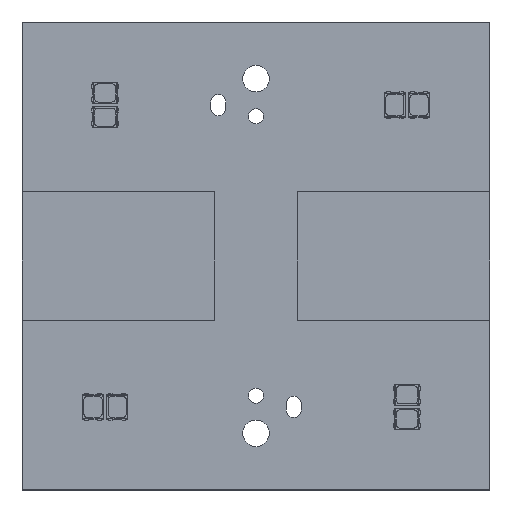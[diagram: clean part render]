
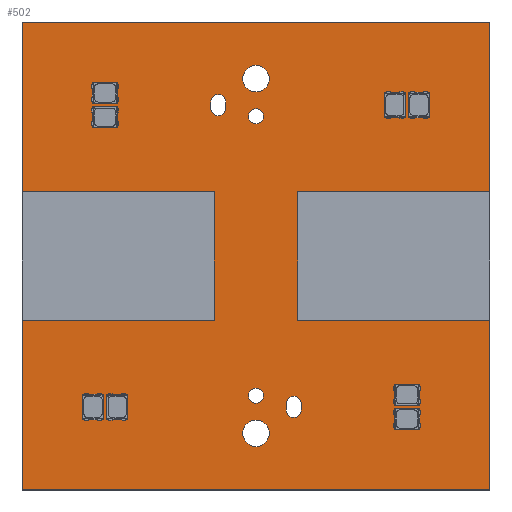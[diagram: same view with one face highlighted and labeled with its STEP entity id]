
A CAD part, top view. The second image highlights one B-rep face of the part: STEP entity #502.
In plain terms, the highlighted planar face has unit normal (0, 0, 1).
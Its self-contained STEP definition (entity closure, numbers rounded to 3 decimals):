
#60=CARTESIAN_POINT('Vertex',(14.5,28.5,0.)) ;
#65=CARTESIAN_POINT('Line Origine',(1.75,28.5,0.)) ;
#69=CARTESIAN_POINT('Vertex',(-11.,28.5,0.)) ;
#100=CARTESIAN_POINT('Vertex',(-11.,11.5,0.)) ;
#105=CARTESIAN_POINT('Line Origine',(1.75,11.5,0.)) ;
#109=CARTESIAN_POINT('Vertex',(14.5,11.5,0.)) ;
#158=CARTESIAN_POINT('Line Origine',(14.5,20.,0.)) ;
#179=CARTESIAN_POINT('Vertex',(25.5,28.5,0.)) ;
#184=CARTESIAN_POINT('Line Origine',(25.5,20.,0.)) ;
#188=CARTESIAN_POINT('Vertex',(25.5,11.5,0.)) ;
#214=CARTESIAN_POINT('Vertex',(51.,28.5,0.)) ;
#219=CARTESIAN_POINT('Line Origine',(38.25,28.5,0.)) ;
#236=CARTESIAN_POINT('Line Origine',(38.25,11.5,0.)) ;
#240=CARTESIAN_POINT('Vertex',(51.,11.5,0.)) ;
#292=CARTESIAN_POINT('Vertex',(51.,-11.,0.)) ;
#295=CARTESIAN_POINT('Line Origine',(20.,-11.,0.)) ;
#299=CARTESIAN_POINT('Vertex',(-11.,-11.,0.)) ;
#314=CARTESIAN_POINT('Axis2P3D Location',(0.,0.,0.)) ;
#319=CARTESIAN_POINT('Line Origine',(51.,39.75,0.)) ;
#323=CARTESIAN_POINT('Vertex',(51.,51.,0.)) ;
#326=CARTESIAN_POINT('Line Origine',(20.,51.,0.)) ;
#330=CARTESIAN_POINT('Vertex',(-11.,51.,0.)) ;
#333=CARTESIAN_POINT('Line Origine',(-11.,39.75,0.)) ;
#338=CARTESIAN_POINT('Line Origine',(-11.,0.25,0.)) ;
#343=CARTESIAN_POINT('Line Origine',(51.,0.25,0.)) ;
#362=CARTESIAN_POINT('Axis2P3D Location',(20.,38.5,0.)) ;
#366=CARTESIAN_POINT('Vertex',(19.,38.5,0.)) ;
#368=CARTESIAN_POINT('Vertex',(21.,38.5,0.)) ;
#371=CARTESIAN_POINT('Axis2P3D Location',(20.,38.5,0.)) ;
#380=CARTESIAN_POINT('Axis2P3D Location',(20.,-3.5,0.)) ;
#384=CARTESIAN_POINT('Vertex',(18.25,-3.5,0.)) ;
#386=CARTESIAN_POINT('Vertex',(21.75,-3.5,0.)) ;
#389=CARTESIAN_POINT('Axis2P3D Location',(20.,-3.5,0.)) ;
#398=CARTESIAN_POINT('Axis2P3D Location',(20.,43.5,0.)) ;
#402=CARTESIAN_POINT('Vertex',(18.25,43.5,0.)) ;
#404=CARTESIAN_POINT('Vertex',(21.75,43.5,0.)) ;
#407=CARTESIAN_POINT('Axis2P3D Location',(20.,43.5,0.)) ;
#416=CARTESIAN_POINT('Axis2P3D Location',(20.,1.5,0.)) ;
#420=CARTESIAN_POINT('Vertex',(19.,1.5,0.)) ;
#422=CARTESIAN_POINT('Vertex',(21.,1.5,0.)) ;
#425=CARTESIAN_POINT('Axis2P3D Location',(20.,1.5,0.)) ;
#434=CARTESIAN_POINT('Line Origine',(26.,0.,0.)) ;
#438=CARTESIAN_POINT('Vertex',(26.,-0.4,0.)) ;
#440=CARTESIAN_POINT('Vertex',(26.,0.4,0.)) ;
#443=CARTESIAN_POINT('Axis2P3D Location',(25.,-0.4,0.)) ;
#447=CARTESIAN_POINT('Vertex',(24.,-0.4,0.)) ;
#450=CARTESIAN_POINT('Line Origine',(24.,0.,0.)) ;
#454=CARTESIAN_POINT('Vertex',(24.,0.4,0.)) ;
#457=CARTESIAN_POINT('Axis2P3D Location',(25.,0.4,0.)) ;
#468=CARTESIAN_POINT('Line Origine',(16.,40.,0.)) ;
#472=CARTESIAN_POINT('Vertex',(16.,39.6,0.)) ;
#474=CARTESIAN_POINT('Vertex',(16.,40.4,0.)) ;
#477=CARTESIAN_POINT('Axis2P3D Location',(15.,39.6,0.)) ;
#481=CARTESIAN_POINT('Vertex',(14.,39.6,0.)) ;
#484=CARTESIAN_POINT('Line Origine',(14.,40.,0.)) ;
#488=CARTESIAN_POINT('Vertex',(14.,40.4,0.)) ;
#491=CARTESIAN_POINT('Axis2P3D Location',(15.,40.4,0.)) ;
#66=DIRECTION('Vector Direction',(1.,0.,0.)) ;
#106=DIRECTION('Vector Direction',(-1.,0.,0.)) ;
#159=DIRECTION('Vector Direction',(0.,1.,0.)) ;
#185=DIRECTION('Vector Direction',(0.,-1.,0.)) ;
#220=DIRECTION('Vector Direction',(1.,0.,0.)) ;
#237=DIRECTION('Vector Direction',(-1.,0.,0.)) ;
#296=DIRECTION('Vector Direction',(1.,0.,0.)) ;
#315=DIRECTION('Axis2P3D Direction',(0.,0.,1.)) ;
#316=DIRECTION('Axis2P3D XDirection',(1.,0.,0.)) ;
#320=DIRECTION('Vector Direction',(0.,1.,0.)) ;
#327=DIRECTION('Vector Direction',(-1.,0.,0.)) ;
#334=DIRECTION('Vector Direction',(0.,-1.,0.)) ;
#339=DIRECTION('Vector Direction',(0.,-1.,0.)) ;
#344=DIRECTION('Vector Direction',(0.,1.,0.)) ;
#363=DIRECTION('Axis2P3D Direction',(0.,0.,1.)) ;
#372=DIRECTION('Axis2P3D Direction',(0.,0.,1.)) ;
#381=DIRECTION('Axis2P3D Direction',(0.,0.,1.)) ;
#390=DIRECTION('Axis2P3D Direction',(0.,0.,1.)) ;
#399=DIRECTION('Axis2P3D Direction',(0.,0.,1.)) ;
#408=DIRECTION('Axis2P3D Direction',(0.,0.,1.)) ;
#417=DIRECTION('Axis2P3D Direction',(0.,0.,1.)) ;
#426=DIRECTION('Axis2P3D Direction',(0.,0.,1.)) ;
#435=DIRECTION('Vector Direction',(0.,-1.,0.)) ;
#444=DIRECTION('Axis2P3D Direction',(0.,0.,1.)) ;
#451=DIRECTION('Vector Direction',(0.,-1.,0.)) ;
#458=DIRECTION('Axis2P3D Direction',(0.,0.,1.)) ;
#469=DIRECTION('Vector Direction',(0.,1.,0.)) ;
#478=DIRECTION('Axis2P3D Direction',(0.,0.,1.)) ;
#485=DIRECTION('Vector Direction',(0.,1.,0.)) ;
#492=DIRECTION('Axis2P3D Direction',(0.,0.,1.)) ;
#317=AXIS2_PLACEMENT_3D('Plane Axis2P3D',#314,#315,#316) ;
#364=AXIS2_PLACEMENT_3D('Circle Axis2P3D',#362,#363,$) ;
#373=AXIS2_PLACEMENT_3D('Circle Axis2P3D',#371,#372,$) ;
#382=AXIS2_PLACEMENT_3D('Circle Axis2P3D',#380,#381,$) ;
#391=AXIS2_PLACEMENT_3D('Circle Axis2P3D',#389,#390,$) ;
#400=AXIS2_PLACEMENT_3D('Circle Axis2P3D',#398,#399,$) ;
#409=AXIS2_PLACEMENT_3D('Circle Axis2P3D',#407,#408,$) ;
#418=AXIS2_PLACEMENT_3D('Circle Axis2P3D',#416,#417,$) ;
#427=AXIS2_PLACEMENT_3D('Circle Axis2P3D',#425,#426,$) ;
#445=AXIS2_PLACEMENT_3D('Circle Axis2P3D',#443,#444,$) ;
#459=AXIS2_PLACEMENT_3D('Circle Axis2P3D',#457,#458,$) ;
#479=AXIS2_PLACEMENT_3D('Circle Axis2P3D',#477,#478,$) ;
#493=AXIS2_PLACEMENT_3D('Circle Axis2P3D',#491,#492,$) ;
#349=ORIENTED_EDGE('',*,*,#325,.T.) ;
#350=ORIENTED_EDGE('',*,*,#332,.T.) ;
#351=ORIENTED_EDGE('',*,*,#337,.T.) ;
#352=ORIENTED_EDGE('',*,*,#71,.F.) ;
#353=ORIENTED_EDGE('',*,*,#162,.F.) ;
#354=ORIENTED_EDGE('',*,*,#111,.F.) ;
#355=ORIENTED_EDGE('',*,*,#342,.T.) ;
#356=ORIENTED_EDGE('',*,*,#301,.T.) ;
#357=ORIENTED_EDGE('',*,*,#347,.T.) ;
#358=ORIENTED_EDGE('',*,*,#242,.F.) ;
#359=ORIENTED_EDGE('',*,*,#190,.F.) ;
#360=ORIENTED_EDGE('',*,*,#223,.F.) ;
#377=ORIENTED_EDGE('',*,*,#370,.F.) ;
#378=ORIENTED_EDGE('',*,*,#375,.F.) ;
#395=ORIENTED_EDGE('',*,*,#388,.F.) ;
#396=ORIENTED_EDGE('',*,*,#393,.F.) ;
#413=ORIENTED_EDGE('',*,*,#406,.F.) ;
#414=ORIENTED_EDGE('',*,*,#411,.F.) ;
#431=ORIENTED_EDGE('',*,*,#424,.F.) ;
#432=ORIENTED_EDGE('',*,*,#429,.F.) ;
#463=ORIENTED_EDGE('',*,*,#442,.F.) ;
#464=ORIENTED_EDGE('',*,*,#449,.F.) ;
#465=ORIENTED_EDGE('',*,*,#456,.F.) ;
#466=ORIENTED_EDGE('',*,*,#461,.F.) ;
#497=ORIENTED_EDGE('',*,*,#476,.F.) ;
#498=ORIENTED_EDGE('',*,*,#483,.F.) ;
#499=ORIENTED_EDGE('',*,*,#490,.F.) ;
#500=ORIENTED_EDGE('',*,*,#495,.F.) ;
#379=FACE_BOUND('',#376,.T.) ;
#397=FACE_BOUND('',#394,.T.) ;
#415=FACE_BOUND('',#412,.T.) ;
#433=FACE_BOUND('',#430,.T.) ;
#467=FACE_BOUND('',#462,.T.) ;
#501=FACE_BOUND('',#496,.T.) ;
#67=VECTOR('Line Direction',#66,1.) ;
#107=VECTOR('Line Direction',#106,1.) ;
#160=VECTOR('Line Direction',#159,1.) ;
#186=VECTOR('Line Direction',#185,1.) ;
#221=VECTOR('Line Direction',#220,1.) ;
#238=VECTOR('Line Direction',#237,1.) ;
#297=VECTOR('Line Direction',#296,1.) ;
#321=VECTOR('Line Direction',#320,1.) ;
#328=VECTOR('Line Direction',#327,1.) ;
#335=VECTOR('Line Direction',#334,1.) ;
#340=VECTOR('Line Direction',#339,1.) ;
#345=VECTOR('Line Direction',#344,1.) ;
#436=VECTOR('Line Direction',#435,1.) ;
#452=VECTOR('Line Direction',#451,1.) ;
#470=VECTOR('Line Direction',#469,1.) ;
#486=VECTOR('Line Direction',#485,1.) ;
#502=ADVANCED_FACE('PartBody',(#361,#379,#397,#415,#433,#467,#501),#318,.T.) ;
#365=CIRCLE('generated circle',#364,1.) ;
#374=CIRCLE('generated circle',#373,1.) ;
#383=CIRCLE('generated circle',#382,1.75) ;
#392=CIRCLE('generated circle',#391,1.75) ;
#401=CIRCLE('generated circle',#400,1.75) ;
#410=CIRCLE('generated circle',#409,1.75) ;
#419=CIRCLE('generated circle',#418,1.) ;
#428=CIRCLE('generated circle',#427,1.) ;
#446=CIRCLE('generated circle',#445,1.) ;
#460=CIRCLE('generated circle',#459,1.) ;
#480=CIRCLE('generated circle',#479,1.) ;
#494=CIRCLE('generated circle',#493,1.) ;
#71=EDGE_CURVE('',#61,#70,#68,.F.) ;
#111=EDGE_CURVE('',#101,#110,#108,.F.) ;
#162=EDGE_CURVE('',#110,#61,#161,.T.) ;
#190=EDGE_CURVE('',#180,#189,#187,.T.) ;
#223=EDGE_CURVE('',#215,#180,#222,.F.) ;
#242=EDGE_CURVE('',#189,#241,#239,.F.) ;
#301=EDGE_CURVE('',#300,#293,#298,.T.) ;
#325=EDGE_CURVE('',#215,#324,#322,.T.) ;
#332=EDGE_CURVE('',#324,#331,#329,.T.) ;
#337=EDGE_CURVE('',#331,#70,#336,.T.) ;
#342=EDGE_CURVE('',#101,#300,#341,.T.) ;
#347=EDGE_CURVE('',#293,#241,#346,.T.) ;
#370=EDGE_CURVE('',#367,#369,#365,.T.) ;
#375=EDGE_CURVE('',#369,#367,#374,.T.) ;
#388=EDGE_CURVE('',#385,#387,#383,.T.) ;
#393=EDGE_CURVE('',#387,#385,#392,.T.) ;
#406=EDGE_CURVE('',#403,#405,#401,.T.) ;
#411=EDGE_CURVE('',#405,#403,#410,.T.) ;
#424=EDGE_CURVE('',#421,#423,#419,.T.) ;
#429=EDGE_CURVE('',#423,#421,#428,.T.) ;
#442=EDGE_CURVE('',#439,#441,#437,.F.) ;
#449=EDGE_CURVE('',#448,#439,#446,.T.) ;
#456=EDGE_CURVE('',#455,#448,#453,.T.) ;
#461=EDGE_CURVE('',#441,#455,#460,.T.) ;
#476=EDGE_CURVE('',#473,#475,#471,.T.) ;
#483=EDGE_CURVE('',#482,#473,#480,.T.) ;
#490=EDGE_CURVE('',#489,#482,#487,.F.) ;
#495=EDGE_CURVE('',#475,#489,#494,.T.) ;
#348=EDGE_LOOP('',(#349,#350,#351,#352,#353,#354,#355,#356,#357,#358,#359,#360)) ;
#376=EDGE_LOOP('',(#377,#378)) ;
#394=EDGE_LOOP('',(#395,#396)) ;
#412=EDGE_LOOP('',(#413,#414)) ;
#430=EDGE_LOOP('',(#431,#432)) ;
#462=EDGE_LOOP('',(#463,#464,#465,#466)) ;
#496=EDGE_LOOP('',(#497,#498,#499,#500)) ;
#361=FACE_OUTER_BOUND('',#348,.T.) ;
#68=LINE('Line',#65,#67) ;
#108=LINE('Line',#105,#107) ;
#161=LINE('Line',#158,#160) ;
#187=LINE('Line',#184,#186) ;
#222=LINE('Line',#219,#221) ;
#239=LINE('Line',#236,#238) ;
#298=LINE('Line',#295,#297) ;
#322=LINE('Line',#319,#321) ;
#329=LINE('Line',#326,#328) ;
#336=LINE('Line',#333,#335) ;
#341=LINE('Line',#338,#340) ;
#346=LINE('Line',#343,#345) ;
#437=LINE('Line',#434,#436) ;
#453=LINE('Line',#450,#452) ;
#471=LINE('Line',#468,#470) ;
#487=LINE('Line',#484,#486) ;
#318=PLANE('',#317) ;
#61=VERTEX_POINT('',#60) ;
#70=VERTEX_POINT('',#69) ;
#101=VERTEX_POINT('',#100) ;
#110=VERTEX_POINT('',#109) ;
#180=VERTEX_POINT('',#179) ;
#189=VERTEX_POINT('',#188) ;
#215=VERTEX_POINT('',#214) ;
#241=VERTEX_POINT('',#240) ;
#293=VERTEX_POINT('',#292) ;
#300=VERTEX_POINT('',#299) ;
#324=VERTEX_POINT('',#323) ;
#331=VERTEX_POINT('',#330) ;
#367=VERTEX_POINT('',#366) ;
#369=VERTEX_POINT('',#368) ;
#385=VERTEX_POINT('',#384) ;
#387=VERTEX_POINT('',#386) ;
#403=VERTEX_POINT('',#402) ;
#405=VERTEX_POINT('',#404) ;
#421=VERTEX_POINT('',#420) ;
#423=VERTEX_POINT('',#422) ;
#439=VERTEX_POINT('',#438) ;
#441=VERTEX_POINT('',#440) ;
#448=VERTEX_POINT('',#447) ;
#455=VERTEX_POINT('',#454) ;
#473=VERTEX_POINT('',#472) ;
#475=VERTEX_POINT('',#474) ;
#482=VERTEX_POINT('',#481) ;
#489=VERTEX_POINT('',#488) ;
